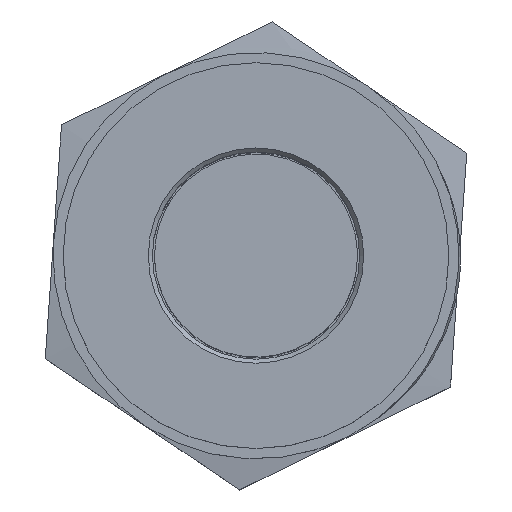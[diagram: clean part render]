
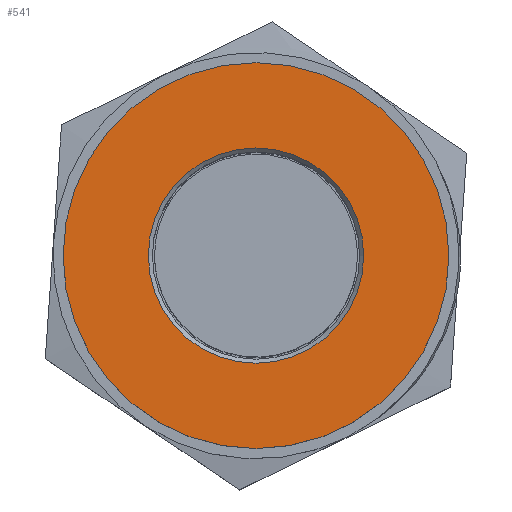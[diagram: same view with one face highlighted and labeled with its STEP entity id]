
A CAD part, top view. The second image highlights one B-rep face of the part: STEP entity #541.
In plain terms, the highlighted planar face has unit normal (0, 0, 1).
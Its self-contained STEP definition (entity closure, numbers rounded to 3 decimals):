
#541 = ADVANCED_FACE( '', ( #1017, #1018 ), #1019, .F. );
#1017 = FACE_BOUND( '', #6201, .T. );
#1018 = FACE_OUTER_BOUND( '', #6202, .T. );
#1019 = PLANE( '', #6203 );
#6201 = EDGE_LOOP( '', ( #7149 ) );
#6202 = EDGE_LOOP( '', ( #7150 ) );
#6203 = AXIS2_PLACEMENT_3D( '', #7151, #7152, #7153 );
#7149 = ORIENTED_EDGE( '', *, *, #7488, .T. );
#7150 = ORIENTED_EDGE( '', *, *, #7381, .F. );
#7151 = CARTESIAN_POINT( '', ( 0., 0., 10.65 ) );
#7152 = DIRECTION( '', ( 0., 0., -1. ) );
#7153 = DIRECTION( '', ( -1., 0., 0. ) );
#7381 = EDGE_CURVE( '', #7891, #7891, #7892, .T. );
#7488 = EDGE_CURVE( '', #8030, #8030, #8031, .T. );
#7891 = VERTEX_POINT( '', #11274 );
#7892 = CIRCLE( '', #11275, 4.75 );
#8030 = VERTEX_POINT( '', #13981 );
#8031 = CIRCLE( '', #13982, 2.65 );
#11274 = CARTESIAN_POINT( '', ( 0., -4.75, 10.65 ) );
#11275 = AXIS2_PLACEMENT_3D( '', #14304, #14305, #14306 );
#13981 = CARTESIAN_POINT( '', ( -2.65, 0., 10.65 ) );
#13982 = AXIS2_PLACEMENT_3D( '', #14398, #14399, #14400 );
#14304 = CARTESIAN_POINT( '', ( 0., 0., 10.65 ) );
#14305 = DIRECTION( '', ( 0., 0., -1. ) );
#14306 = DIRECTION( '', ( 0., -1., 0. ) );
#14398 = CARTESIAN_POINT( '', ( 0., 0., 10.65 ) );
#14399 = DIRECTION( '', ( 0., 0., -1. ) );
#14400 = DIRECTION( '', ( -1., 0., 0. ) );
